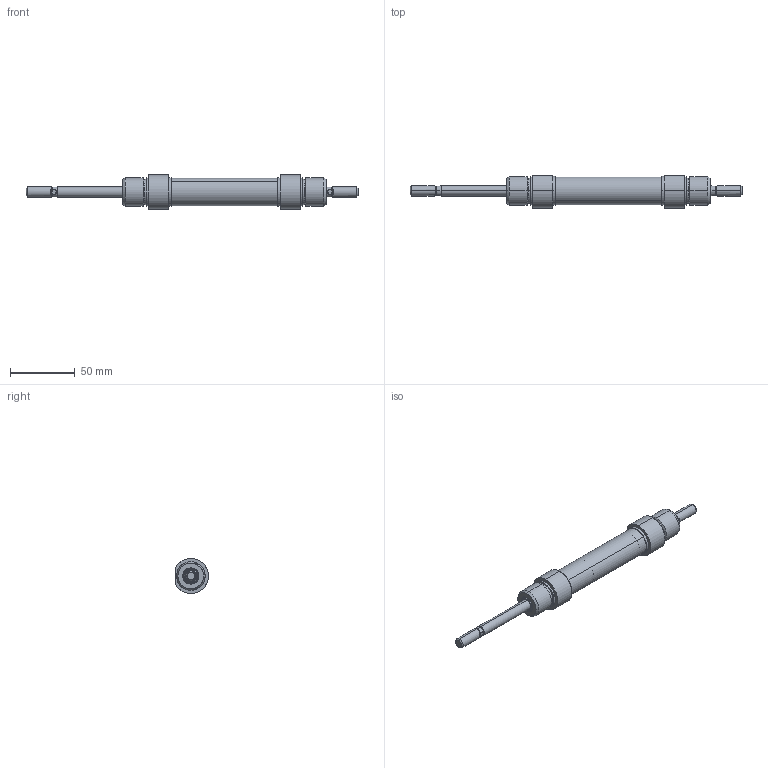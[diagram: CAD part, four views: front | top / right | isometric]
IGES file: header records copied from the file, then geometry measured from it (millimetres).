
Start section: SolidWorks IGES file using analytic representation for surfaces
Global section: file name: K:\Disegni Esecutivi\Cilindri\2_DISEGNI_cilindri_in_produzione\2_Minicilindri ISO 6432\1Minisolidworks\5_minicilindri iso 6432_20 solidworks\complessivi solid 20\20cplx3d\MJ020\MJ020_PIENO\MJ0200050A.igs; native system: SolidWorks 2011; preprocessor: SolidWorks 2011; author: cad01; date: 110505.181047; units: millimetre
Bounding box: 256 x 25.2 x 27 mm (x, y, z)
Surface area: 20701.1 mm2 (no closed solid volume)
Topology: 0 solids, 0 shells, 124 faces, 1918 edges, 1918 vertices
Faces by surface type: revolution 78, bspline 46
